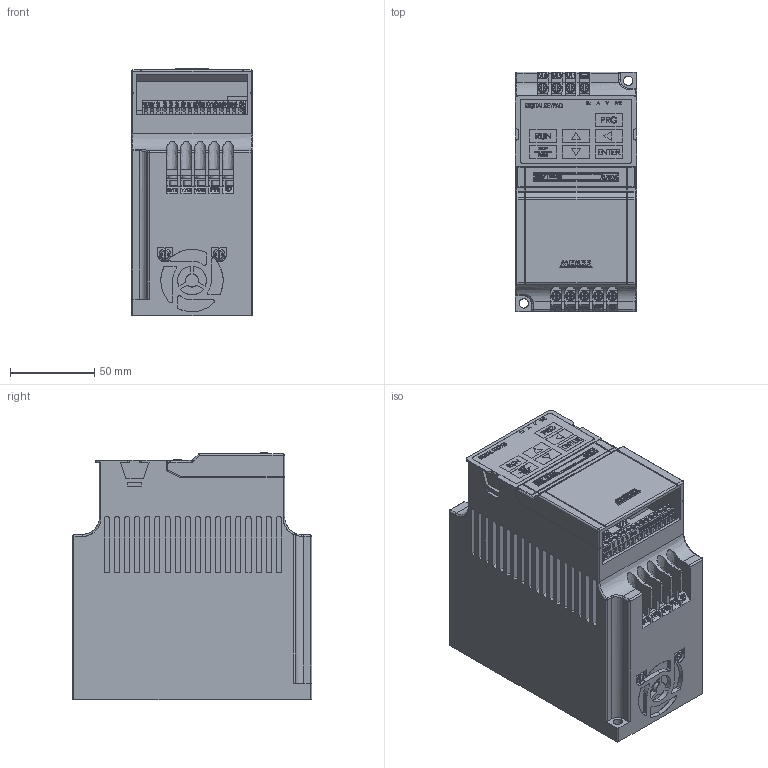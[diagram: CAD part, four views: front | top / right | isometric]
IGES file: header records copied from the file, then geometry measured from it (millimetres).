
Start section: SolidWorks IGES file using analytic representation for surfaces
Global section: file name: D:\X - Arquivos\PROEX\Empresas\P11 - METALTEX\01 - Produtos\IGES\5ª remessa\6ª etapa\IF20-201-1.IGS; native system: SolidWorks 2012; preprocessor: SolidWorks 2012; author: Usuario; date: 181128.163654; units: millimetre
Bounding box: 72 x 142.02 x 147 mm (x, y, z)
Surface area: 110755.3 mm2 (no closed solid volume)
Topology: 0 solids, 0 shells, 3127 faces, 29975 edges, 29967 vertices
Faces by surface type: bspline 2833, revolution 294
